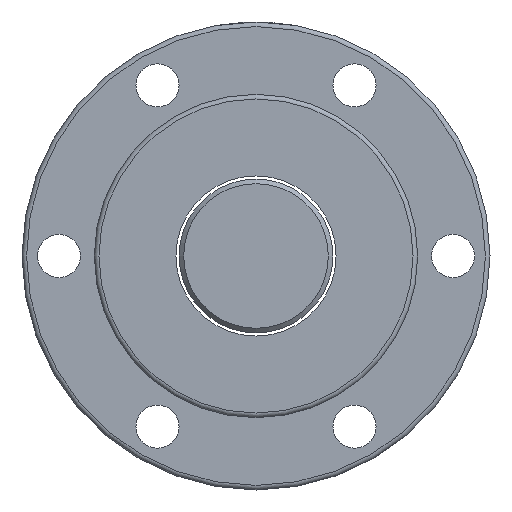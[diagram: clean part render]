
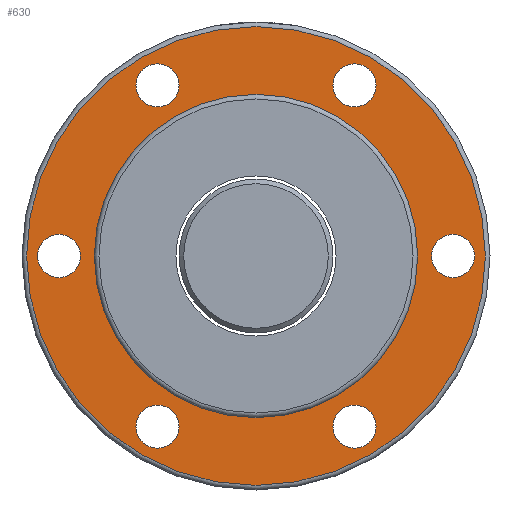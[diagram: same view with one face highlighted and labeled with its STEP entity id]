
A CAD part, left-side view. The second image highlights one B-rep face of the part: STEP entity #630.
In plain terms, the highlighted planar face has unit normal (-1, 0, 0).
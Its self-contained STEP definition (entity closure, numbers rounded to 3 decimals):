
#65=PLANE('',#742);
#151=ORIENTED_EDGE('',*,*,#249,.T.);
#152=ORIENTED_EDGE('',*,*,#248,.F.);
#153=ORIENTED_EDGE('',*,*,#245,.T.);
#154=ORIENTED_EDGE('',*,*,#241,.T.);
#155=ORIENTED_EDGE('',*,*,#237,.T.);
#156=ORIENTED_EDGE('',*,*,#233,.T.);
#157=ORIENTED_EDGE('',*,*,#229,.T.);
#158=ORIENTED_EDGE('',*,*,#225,.T.);
#225=EDGE_CURVE('',#286,#286,#338,.T.);
#229=EDGE_CURVE('',#290,#290,#342,.T.);
#233=EDGE_CURVE('',#294,#294,#346,.T.);
#237=EDGE_CURVE('',#298,#298,#350,.T.);
#241=EDGE_CURVE('',#302,#302,#354,.T.);
#245=EDGE_CURVE('',#306,#306,#358,.T.);
#248=EDGE_CURVE('',#309,#309,#361,.T.);
#249=EDGE_CURVE('',#310,#310,#362,.T.);
#286=VERTEX_POINT('',#1042);
#290=VERTEX_POINT('',#1053);
#294=VERTEX_POINT('',#1064);
#298=VERTEX_POINT('',#1075);
#302=VERTEX_POINT('',#1086);
#306=VERTEX_POINT('',#1097);
#309=VERTEX_POINT('',#1106);
#310=VERTEX_POINT('',#1109);
#338=CIRCLE('',#700,7.);
#342=CIRCLE('',#707,7.);
#346=CIRCLE('',#714,7.);
#350=CIRCLE('',#721,7.);
#354=CIRCLE('',#728,7.);
#358=CIRCLE('',#735,7.);
#361=CIRCLE('',#741,74.5);
#362=CIRCLE('',#743,52.5);
#436=EDGE_LOOP('',(#151));
#437=EDGE_LOOP('',(#152));
#438=EDGE_LOOP('',(#153));
#439=EDGE_LOOP('',(#154));
#440=EDGE_LOOP('',(#155));
#441=EDGE_LOOP('',(#156));
#442=EDGE_LOOP('',(#157));
#443=EDGE_LOOP('',(#158));
#539=FACE_BOUND('',#436,.T.);
#540=FACE_BOUND('',#437,.T.);
#541=FACE_BOUND('',#438,.T.);
#542=FACE_BOUND('',#439,.T.);
#543=FACE_BOUND('',#440,.T.);
#544=FACE_BOUND('',#441,.T.);
#545=FACE_BOUND('',#442,.T.);
#546=FACE_BOUND('',#443,.T.);
#630=ADVANCED_FACE('',(#539,#540,#541,#542,#543,#544,#545,#546),#65,.F.);
#700=AXIS2_PLACEMENT_3D('',#1041,#824,#825);
#707=AXIS2_PLACEMENT_3D('',#1052,#838,#839);
#714=AXIS2_PLACEMENT_3D('',#1063,#852,#853);
#721=AXIS2_PLACEMENT_3D('',#1074,#866,#867);
#728=AXIS2_PLACEMENT_3D('',#1085,#880,#881);
#735=AXIS2_PLACEMENT_3D('',#1096,#894,#895);
#741=AXIS2_PLACEMENT_3D('',#1105,#906,#907);
#742=AXIS2_PLACEMENT_3D('',#1107,#908,#909);
#743=AXIS2_PLACEMENT_3D('',#1108,#910,#911);
#824=DIRECTION('',(1.,0.,0.));
#825=DIRECTION('',(0.,1.,0.));
#838=DIRECTION('',(1.,0.,0.));
#839=DIRECTION('',(0.,1.,0.));
#852=DIRECTION('',(1.,0.,0.));
#853=DIRECTION('',(0.,1.,0.));
#866=DIRECTION('',(1.,0.,0.));
#867=DIRECTION('',(0.,1.,0.));
#880=DIRECTION('',(1.,0.,0.));
#881=DIRECTION('',(0.,1.,0.));
#894=DIRECTION('',(1.,0.,0.));
#895=DIRECTION('',(0.,1.,0.));
#906=DIRECTION('',(1.,0.,0.));
#907=DIRECTION('',(0.,1.,0.));
#908=DIRECTION('',(1.,0.,0.));
#909=DIRECTION('',(0.,1.,0.));
#910=DIRECTION('',(1.,0.,0.));
#911=DIRECTION('',(0.,1.,0.));
#1041=CARTESIAN_POINT('',(-62.5,64.,0.));
#1042=CARTESIAN_POINT('',(-62.5,71.,0.));
#1052=CARTESIAN_POINT('',(-62.5,-64.,0.));
#1053=CARTESIAN_POINT('',(-62.5,-57.,0.));
#1063=CARTESIAN_POINT('',(-62.5,32.,-55.425));
#1064=CARTESIAN_POINT('',(-62.5,39.,-55.425));
#1074=CARTESIAN_POINT('',(-62.5,-32.,-55.426));
#1075=CARTESIAN_POINT('',(-62.5,-25.,-55.426));
#1085=CARTESIAN_POINT('',(-62.5,-32.,55.426));
#1086=CARTESIAN_POINT('',(-62.5,-25.,55.426));
#1096=CARTESIAN_POINT('',(-62.5,32.,55.426));
#1097=CARTESIAN_POINT('',(-62.5,39.,55.426));
#1105=CARTESIAN_POINT('',(-62.5,0.,0.));
#1106=CARTESIAN_POINT('',(-62.5,74.5,0.));
#1107=CARTESIAN_POINT('',(-62.5,63.5,0.));
#1108=CARTESIAN_POINT('',(-62.5,0.,0.));
#1109=CARTESIAN_POINT('',(-62.5,52.5,0.));
